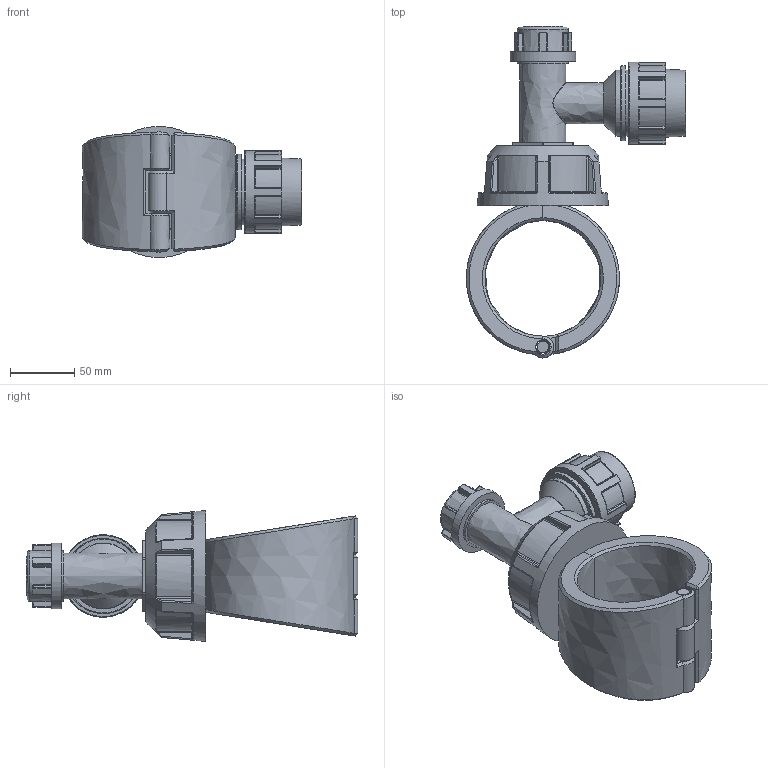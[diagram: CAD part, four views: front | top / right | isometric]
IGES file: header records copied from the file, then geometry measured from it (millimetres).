
Global section: file name: 163100090032_1631060900320A; native system: Autodesk Inventor 2019; preprocessor: unknown; author: comp2; date: 20220203.115725; units: millimetre
Bounding box: 170.5 x 258 x 101.83 mm (x, y, z)
Volume: 915587 mm3; surface area: 130356.8 mm2
Topology: 4 solids, 4 shells, 519 faces, 1253 edges, 754 vertices
Faces by surface type: bspline 519
